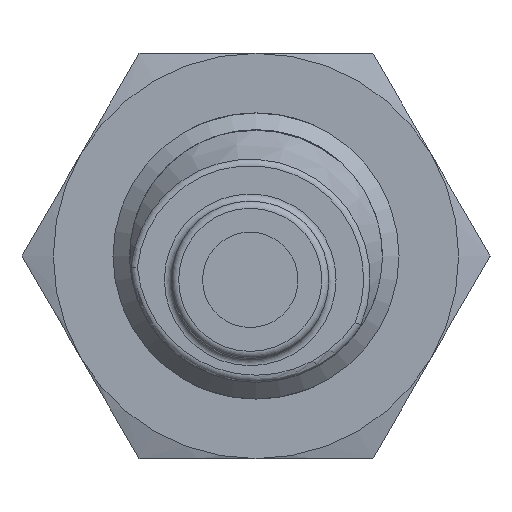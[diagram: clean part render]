
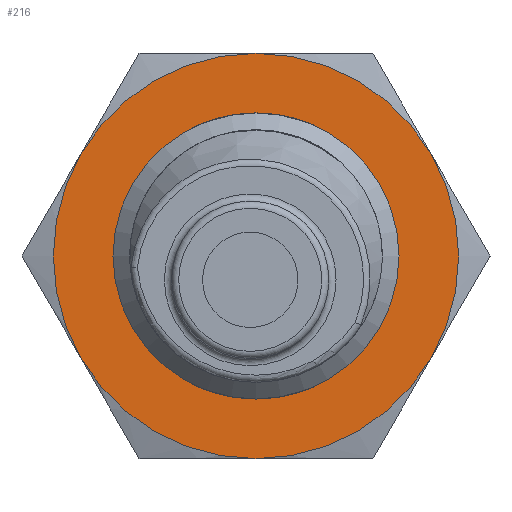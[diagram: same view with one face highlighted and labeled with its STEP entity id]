
A CAD part, left-side view. The second image highlights one B-rep face of the part: STEP entity #216.
In plain terms, the highlighted planar face has unit normal (-1, 0, 0).
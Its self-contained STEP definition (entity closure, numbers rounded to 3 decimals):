
#216 = ADVANCED_FACE( '', ( #314, #315 ), #316, .T. );
#314 = FACE_BOUND( '', #426, .T. );
#315 = FACE_OUTER_BOUND( '', #427, .T. );
#316 = PLANE( '', #428 );
#426 = EDGE_LOOP( '', ( #681 ) );
#427 = EDGE_LOOP( '', ( #682, #683, #684, #685, #686, #687 ) );
#428 = AXIS2_PLACEMENT_3D( '', #688, #689, #690 );
#681 = ORIENTED_EDGE( '', *, *, #820, .T. );
#682 = ORIENTED_EDGE( '', *, *, #821, .F. );
#683 = ORIENTED_EDGE( '', *, *, #822, .F. );
#684 = ORIENTED_EDGE( '', *, *, #783, .F. );
#685 = ORIENTED_EDGE( '', *, *, #823, .F. );
#686 = ORIENTED_EDGE( '', *, *, #786, .F. );
#687 = ORIENTED_EDGE( '', *, *, #824, .F. );
#688 = CARTESIAN_POINT( '', ( 0., 8.5, 0. ) );
#689 = DIRECTION( '', ( -1., 0., 0. ) );
#690 = DIRECTION( '', ( 0., 0., 1. ) );
#783 = EDGE_CURVE( '', #889, #887, #891, .T. );
#786 = EDGE_CURVE( '', #895, #893, #897, .T. );
#820 = EDGE_CURVE( '', #950, #950, #951, .T. );
#821 = EDGE_CURVE( '', #929, #908, #952, .T. );
#822 = EDGE_CURVE( '', #887, #929, #953, .T. );
#823 = EDGE_CURVE( '', #893, #889, #954, .T. );
#824 = EDGE_CURVE( '', #908, #895, #955, .T. );
#887 = VERTEX_POINT( '', #1093 );
#889 = VERTEX_POINT( '', #1100 );
#891 = CIRCLE( '', #1105, 8.5 );
#893 = VERTEX_POINT( '', #1107 );
#895 = VERTEX_POINT( '', #1112 );
#897 = CIRCLE( '', #1119, 8.5 );
#908 = VERTEX_POINT( '', #1143 );
#929 = VERTEX_POINT( '', #1177 );
#950 = VERTEX_POINT( '', #1242 );
#951 = CIRCLE( '', #1243, 6. );
#952 = CIRCLE( '', #1244, 8.5 );
#953 = CIRCLE( '', #1245, 8.5 );
#954 = CIRCLE( '', #1246, 8.5 );
#955 = CIRCLE( '', #1247, 8.5 );
#1093 = CARTESIAN_POINT( '', ( 0., 0., -8.5 ) );
#1100 = CARTESIAN_POINT( '', ( 0., -7.361, -4.25 ) );
#1105 = AXIS2_PLACEMENT_3D( '', #1320, #1321, #1322 );
#1107 = CARTESIAN_POINT( '', ( 0., -7.361, 4.25 ) );
#1112 = CARTESIAN_POINT( '', ( 0., 0., 8.5 ) );
#1119 = AXIS2_PLACEMENT_3D( '', #1323, #1324, #1325 );
#1143 = CARTESIAN_POINT( '', ( 0., 7.361, 4.25 ) );
#1177 = CARTESIAN_POINT( '', ( 0., 7.361, -4.25 ) );
#1242 = CARTESIAN_POINT( '', ( 0., 0., -6. ) );
#1243 = AXIS2_PLACEMENT_3D( '', #1353, #1354, #1355 );
#1244 = AXIS2_PLACEMENT_3D( '', #1356, #1357, #1358 );
#1245 = AXIS2_PLACEMENT_3D( '', #1359, #1360, #1361 );
#1246 = AXIS2_PLACEMENT_3D( '', #1362, #1363, #1364 );
#1247 = AXIS2_PLACEMENT_3D( '', #1365, #1366, #1367 );
#1320 = CARTESIAN_POINT( '', ( 0., 0., 0. ) );
#1321 = DIRECTION( '', ( 1., 0., 0. ) );
#1322 = DIRECTION( '', ( 0., 0., -1. ) );
#1323 = CARTESIAN_POINT( '', ( 0., 0., 0. ) );
#1324 = DIRECTION( '', ( 1., 0., 0. ) );
#1325 = DIRECTION( '', ( 0., 0., -1. ) );
#1353 = CARTESIAN_POINT( '', ( 0., 0., 0. ) );
#1354 = DIRECTION( '', ( 1., 0., 0. ) );
#1355 = DIRECTION( '', ( 0., 0., -1. ) );
#1356 = CARTESIAN_POINT( '', ( 0., 0., 0. ) );
#1357 = DIRECTION( '', ( 1., 0., 0. ) );
#1358 = DIRECTION( '', ( 0., 0., -1. ) );
#1359 = CARTESIAN_POINT( '', ( 0., 0., 0. ) );
#1360 = DIRECTION( '', ( 1., 0., 0. ) );
#1361 = DIRECTION( '', ( 0., 0., -1. ) );
#1362 = CARTESIAN_POINT( '', ( 0., 0., 0. ) );
#1363 = DIRECTION( '', ( 1., 0., 0. ) );
#1364 = DIRECTION( '', ( 0., 0., -1. ) );
#1365 = CARTESIAN_POINT( '', ( 0., 0., 0. ) );
#1366 = DIRECTION( '', ( 1., 0., 0. ) );
#1367 = DIRECTION( '', ( 0., 0., -1. ) );
